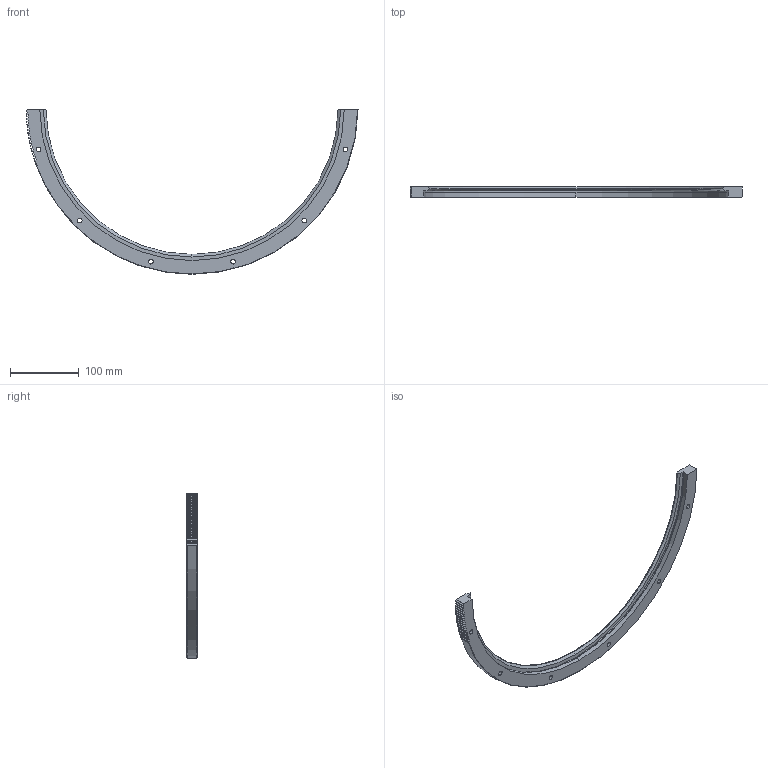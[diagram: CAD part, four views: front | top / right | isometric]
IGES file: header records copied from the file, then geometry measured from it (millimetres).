
Start section: 3D InterOp IGES (v. 2020 1.0.1), Spatial Corp. Copyright (c) 1999-2017.
Global section: file name: rim_482_r180_p.igs; native system: Spatial Corp.; preprocessor: 3D InterOp ACIS/IGES; author: TraceParts; organization: TraceParts S.A.; date: 20220624.062635; units: millimetre
Bounding box: 482.47 x 15.5 x 239.25 mm (x, y, z)
Surface area: 64824.5 mm2 (no closed solid volume)
Topology: 0 solids, 0 shells, 188 faces, 1070 edges, 1070 vertices
Faces by surface type: extrusion 108, revolution 80
